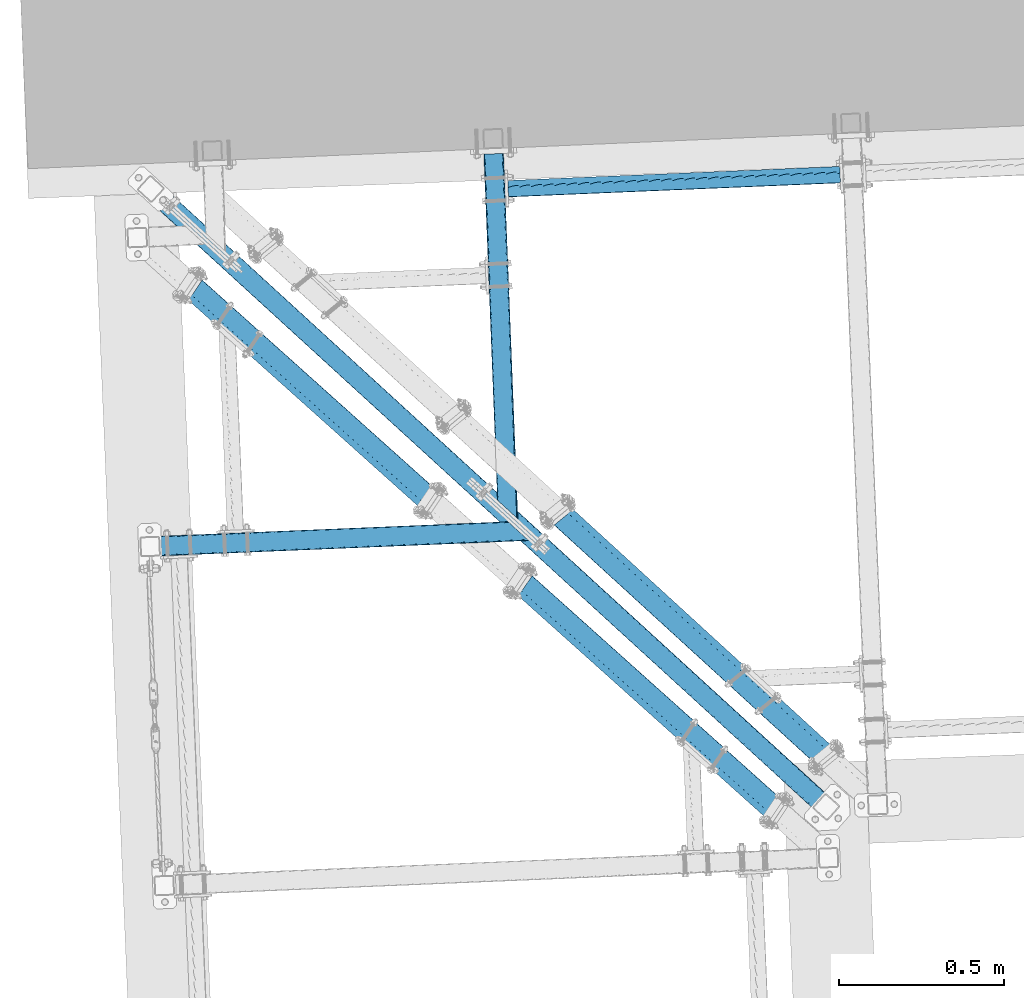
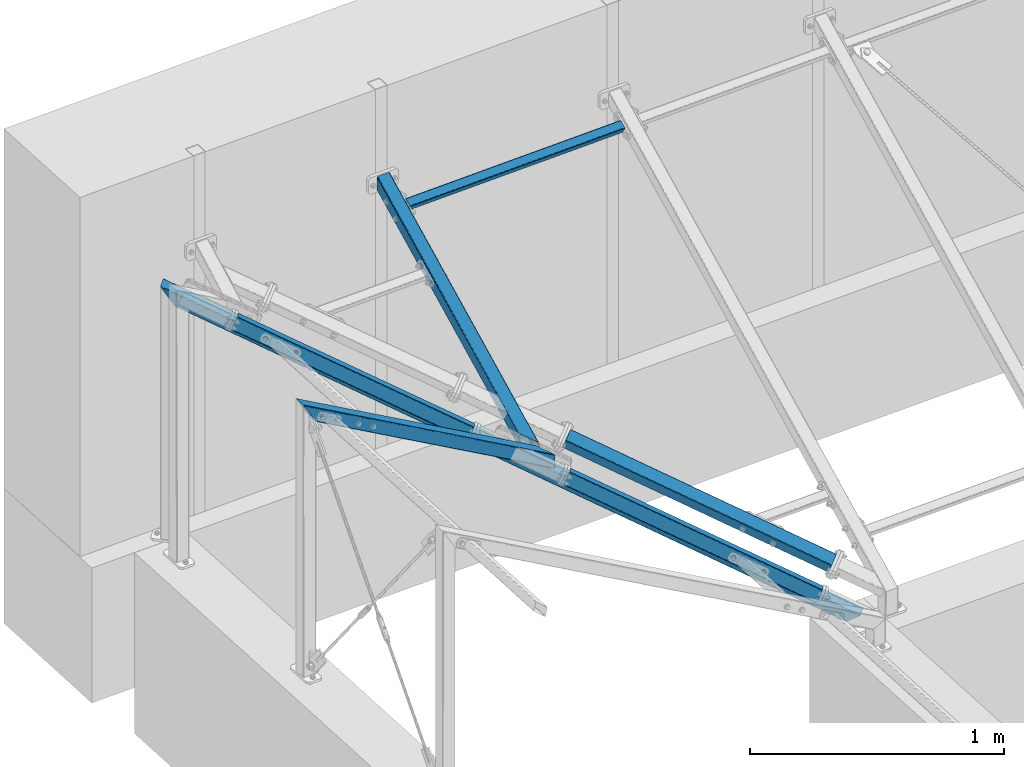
# One storey, part 14 of 288: 7 members, 36 openings.
"""IFC2X3 building model written with IfcOpenShell, lengths in millimetres."""

from ifc_helpers import new_model, entity, si_unit, converted_unit, frame, frame_2d, origin, origin_with_axes, origin_2d, origin_2d_with_axis, place, context, project, spatial, hollow_rectangle, circle, extrude, clip, halfspace, material, element, save


model = new_model("IFC2X3")

# Units and contexts
model_context = context("Model", 3, precision=1e-09, world=origin_with_axes())
ifc_project = project(units=[si_unit("LENGTHUNIT", "METRE", prefix="MILLI"), si_unit("AREAUNIT", "SQUARE_METRE"), si_unit("VOLUMEUNIT", "CUBIC_METRE"), converted_unit("PLANEANGLEUNIT", "DEGREE", entity("IfcPlaneAngleMeasure", 0.01745329), si_unit("PLANEANGLEUNIT", "RADIAN"), dimensions=[0, 0, 0, 0, 0, 0, 0])], contexts=[model_context])

# Site, building, storey
site_placement = place(None, origin_with_axes())
site = spatial("IfcSite", under=ifc_project, at=site_placement, Name="Remont ?wietlik?w nad MC w NCPP w Opolu", CompositionType="ELEMENT")
building_placement = place(site_placement, origin_with_axes())
building = spatial("IfcBuilding", under=site, at=building_placement, Name="Konstrukcja 1", CompositionType="ELEMENT")
storey_placement = place(building_placement, origin_with_axes())
storey = spatial("IfcBuildingStorey", under=building, at=storey_placement, Name="Default Storey", CompositionType="ELEMENT", Elevation=0.0)

# Member, openings
ifc_material = material(Name="S235")
member_1_placement = place(None, frame((312.021757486, 15613.200817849, 1324.932531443), z_axis=(0.033957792, -0.861354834, -0.506867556), x_axis=(-0.019967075, 0.506474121, -0.862023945)))
member_1 = element("IfcMember", 1, at=member_1_placement, inside=storey, material=ifc_material, Name="Horizontal_Beam", ObjectType="Horizontal_Beam", context=model_context, shape_type="Clipping", body=[
    clip(clip(clip(extrude(hollow_rectangle(XDim=60.0, YDim=60.0, WallThickness=3.0, InnerFilletRadius=3.0, OuterFilletRadius=6.0, at=origin_2d()), origin(), (0.0, 0.0, 1.0), 1414.584634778), halfspace(frame((-2782.822670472, 6752.071136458, 7425.348994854), z_axis=(0.363829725, 0.702579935, -0.611563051), x_axis=(0.356117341, -0.711600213, -0.605644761)), True)), halfspace(frame((1116.941804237, -926.828137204, 714.391642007), z_axis=(-0.506867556, -2.38e-07, 0.862023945), x_axis=(-1.15e-07, 1.0, 2.09e-07)), True)), halfspace(frame((1109.467404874, -926.831661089, 727.10326884), z_axis=(-0.506867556, 0.0, 0.862023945), x_axis=(0.0, 1.0, 0.0)), True)),
])
opening_1_placement = place(member_1_placement, frame((-0.584203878, 30.61777008, 199.141844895), z_axis=(-0.001751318, -0.999995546, 0.00241693), x_axis=(-0.999989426, 0.001741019, -0.004256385)))
element("IfcOpeningElement", 2, at=opening_1_placement, cuts=member_1, ObjectType="Opening", context=model_context, shape_type="SweptSolid", body=[
    extrude(circle(Radius=7.001, at=frame_2d((0.0, 40.0), x_axis=(1.0, 0.0))), origin(), (0.0, 0.0, 1.0), 4.038808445),
])
opening_2_placement = place(member_1_placement, frame((-0.584203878, 30.61777008, 199.141844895), z_axis=(-0.001751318, -0.999995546, 0.00241693), x_axis=(-0.999989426, 0.001741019, -0.004256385)))
element("IfcOpeningElement", 3, at=opening_2_placement, cuts=member_1, ObjectType="Opening", context=model_context, shape_type="SweptSolid", body=[
    extrude(circle(Radius=7.001, at=frame_2d((0.0, -40.0), x_axis=(1.0, 0.0))), origin(), (0.0, 0.0, 1.0), 4.038808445),
])
opening_3_placement = place(member_1_placement, frame((-0.584203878, 30.61777008, 199.141844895), z_axis=(-0.001751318, -0.999995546, 0.00241693), x_axis=(-0.999989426, 0.001741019, -0.004256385)))
element("IfcOpeningElement", 4, at=opening_3_placement, cuts=member_1, ObjectType="Opening", context=model_context, shape_type="SweptSolid", body=[
    extrude(circle(Radius=7.001, at=frame_2d((0.0, 40.0), x_axis=(1.0, 0.0))), origin(), (0.0, 0.0, 1.0), 4.232757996),
])
opening_4_placement = place(member_1_placement, frame((-0.584203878, 30.61777008, 199.141844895), z_axis=(-0.001751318, -0.999995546, 0.00241693), x_axis=(-0.999989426, 0.001741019, -0.004256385)))
element("IfcOpeningElement", 5, at=opening_4_placement, cuts=member_1, ObjectType="Opening", context=model_context, shape_type="SweptSolid", body=[
    extrude(circle(Radius=7.001, at=frame_2d((0.0, -40.0), x_axis=(1.0, 0.0))), origin(), (0.0, 0.0, 1.0), 4.232757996),
])
opening_5_placement = place(member_1_placement, frame((-0.684029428, -26.38222992, 199.279610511), z_axis=(-0.001751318, -0.999995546, 0.00241693), x_axis=(-0.999989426, 0.001741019, -0.004256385)))
element("IfcOpeningElement", 6, at=opening_5_placement, cuts=member_1, ObjectType="Opening", context=model_context, shape_type="SweptSolid", body=[
    extrude(circle(Radius=7.001, at=frame_2d((0.0, 40.0), x_axis=(1.0, 0.0))), origin(), (0.0, 0.0, 1.0), 4.038808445),
])
opening_6_placement = place(member_1_placement, frame((-0.684029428, -26.38222992, 199.279610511), z_axis=(-0.001751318, -0.999995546, 0.00241693), x_axis=(-0.999989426, 0.001741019, -0.004256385)))
element("IfcOpeningElement", 7, at=opening_6_placement, cuts=member_1, ObjectType="Opening", context=model_context, shape_type="SweptSolid", body=[
    extrude(circle(Radius=7.001, at=frame_2d((0.0, -40.0), x_axis=(1.0, 0.0))), origin(), (0.0, 0.0, 1.0), 4.038808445),
])
opening_7_placement = place(member_1_placement, frame((-0.684029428, -26.38222992, 199.279610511), z_axis=(-0.001751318, -0.999995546, 0.00241693), x_axis=(-0.999989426, 0.001741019, -0.004256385)))
element("IfcOpeningElement", 8, at=opening_7_placement, cuts=member_1, ObjectType="Opening", context=model_context, shape_type="SweptSolid", body=[
    extrude(circle(Radius=7.001, at=frame_2d((0.0, 40.0), x_axis=(1.0, 0.0))), origin(), (0.0, 0.0, 1.0), 4.232757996),
])
opening_8_placement = place(member_1_placement, frame((-0.684029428, -26.38222992, 199.279610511), z_axis=(-0.001751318, -0.999995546, 0.00241693), x_axis=(-0.999989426, 0.001741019, -0.004256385)))
element("IfcOpeningElement", 9, at=opening_8_placement, cuts=member_1, ObjectType="Opening", context=model_context, shape_type="SweptSolid", body=[
    extrude(circle(Radius=7.001, at=frame_2d((0.0, -40.0), x_axis=(1.0, 0.0))), origin(), (0.0, 0.0, 1.0), 4.232757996),
])
opening_9_placement = place(member_1_placement, frame((5.303739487, 26.273066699, 459.17964791), z_axis=(-0.001751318, -0.999995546, 0.00241693), x_axis=(0.999998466, -0.001751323, 0.0)))
element("IfcOpeningElement", 10, at=opening_9_placement, cuts=member_1, ObjectType="Opening", context=model_context, shape_type="SweptSolid", body=[
    extrude(circle(Radius=7.001, at=frame_2d((-7.000936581, -0.029799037), x_axis=(1.0, 0.0))), origin(), (0.0, 0.0, -1.0), 4.232757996),
])
opening_10_placement = place(member_1_placement, frame((4.963566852, 26.467015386, 539.178689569), z_axis=(-0.001751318, -0.999995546, 0.00241693), x_axis=(0.999998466, -0.001751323, 0.0)))
element("IfcOpeningElement", 11, at=opening_10_placement, cuts=member_1, ObjectType="Opening", context=model_context, shape_type="SweptSolid", body=[
    extrude(circle(Radius=7.001, at=frame_2d((-7.000936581, -0.029799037), x_axis=(1.0, 0.0))), origin(), (0.0, 0.0, -1.0), 4.232757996),
])
opening_11_placement = place(member_1_placement, frame((5.303739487, 26.273066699, 459.17964791), z_axis=(-0.001751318, -0.999995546, 0.00241693), x_axis=(0.999998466, -0.001751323, 0.0)))
element("IfcOpeningElement", 12, at=opening_11_placement, cuts=member_1, ObjectType="Opening", context=model_context, shape_type="SweptSolid", body=[
    extrude(circle(Radius=7.001, at=frame_2d((-7.000936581, -0.029799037), x_axis=(1.0, 0.0))), origin(), (0.0, 0.0, -1.0), 4.038808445),
])
opening_12_placement = place(member_1_placement, frame((4.963566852, 26.467015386, 539.178689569), z_axis=(-0.001751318, -0.999995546, 0.00241693), x_axis=(0.999998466, -0.001751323, 0.0)))
element("IfcOpeningElement", 13, at=opening_12_placement, cuts=member_1, ObjectType="Opening", context=model_context, shape_type="SweptSolid", body=[
    extrude(circle(Radius=7.001, at=frame_2d((-7.000936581, -0.029799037), x_axis=(1.0, 0.0))), origin(), (0.0, 0.0, -1.0), 4.038808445),
])
opening_13_placement = place(member_1_placement, frame((5.203913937, -30.726933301, 459.317413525), z_axis=(-0.001751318, -0.999995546, 0.00241693), x_axis=(0.999998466, -0.001751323, 0.0)))
element("IfcOpeningElement", 14, at=opening_13_placement, cuts=member_1, ObjectType="Opening", context=model_context, shape_type="SweptSolid", body=[
    extrude(circle(Radius=7.001, at=frame_2d((-7.000936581, -0.029799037), x_axis=(1.0, 0.0))), origin(), (0.0, 0.0, -1.0), 4.232757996),
])
opening_14_placement = place(member_1_placement, frame((4.863741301, -30.532984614, 539.316455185), z_axis=(-0.001751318, -0.999995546, 0.00241693), x_axis=(0.999998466, -0.001751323, 0.0)))
element("IfcOpeningElement", 15, at=opening_14_placement, cuts=member_1, ObjectType="Opening", context=model_context, shape_type="SweptSolid", body=[
    extrude(circle(Radius=7.001, at=frame_2d((-7.000936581, -0.029799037), x_axis=(1.0, 0.0))), origin(), (0.0, 0.0, -1.0), 4.232757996),
])
opening_15_placement = place(member_1_placement, frame((5.203913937, -30.726933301, 459.317413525), z_axis=(-0.001751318, -0.999995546, 0.00241693), x_axis=(0.999998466, -0.001751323, 0.0)))
element("IfcOpeningElement", 16, at=opening_15_placement, cuts=member_1, ObjectType="Opening", context=model_context, shape_type="SweptSolid", body=[
    extrude(circle(Radius=7.001, at=frame_2d((-7.000936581, -0.029799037), x_axis=(1.0, 0.0))), origin(), (0.0, 0.0, -1.0), 4.038808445),
])
opening_16_placement = place(member_1_placement, frame((4.863741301, -30.532984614, 539.316455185), z_axis=(-0.001751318, -0.999995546, 0.00241693), x_axis=(0.999998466, -0.001751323, 0.0)))
element("IfcOpeningElement", 17, at=opening_16_placement, cuts=member_1, ObjectType="Opening", context=model_context, shape_type="SweptSolid", body=[
    extrude(circle(Radius=7.001, at=frame_2d((-7.000936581, -0.029799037), x_axis=(1.0, 0.0))), origin(), (0.0, 0.0, -1.0), 4.038808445),
])

member_2_placement = place(None, frame((-797.524528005, 14358.53955782, 1312.426372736), z_axis=(0.865273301, 0.036089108, -0.499999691), x_axis=(-0.499565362, -0.020836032, -0.866025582)))
member_2 = element("IfcMember", 18, at=member_2_placement, inside=storey, material=ifc_material, Name="Horizontal_Beam", ObjectType="Horizontal_Beam", context=model_context, shape_type="Clipping", body=[
    clip(clip(extrude(hollow_rectangle(XDim=60.0, YDim=60.0, WallThickness=3.0, InnerFilletRadius=3.0, OuterFilletRadius=6.0, at=origin_2d()), origin(), (0.0, 0.0, 1.0), 1462.180406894), halfspace(frame((581.174326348, -14379.30140689, 1091.478192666), z_axis=(-0.866025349, 0.0, 0.500000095), x_axis=(0.0, 1.0, 0.0)), True)), halfspace(frame((-2767.347701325, -6637.85844159, 7497.607644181), z_axis=(0.348940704, -0.709991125, -0.611680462), x_axis=(-0.35499771, -0.704205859, 0.614874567)), True)),
])
opening_17_placement = place(member_2_placement, frame((0.044186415, -26.499966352, 151.777308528), z_axis=(-1.14e-07, 1.0, 4.22e-07), x_axis=(-1.0, -1.14e-07, 0.0)))
element("IfcOpeningElement", 19, at=opening_17_placement, cuts=member_2, ObjectType="Opening", context=model_context, shape_type="SweptSolid", body=[
    extrude(circle(Radius=7.001, at=frame_2d((0.0, -7.001), x_axis=(1.0, 0.0))), origin(), (0.0, 0.0, -1.0), 4.000039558),
])
opening_18_placement = place(member_2_placement, frame((0.044186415, -26.5000001, 231.777308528), z_axis=(-1.14e-07, 1.0, 4.22e-07), x_axis=(-1.0, -1.14e-07, 0.0)))
element("IfcOpeningElement", 20, at=opening_18_placement, cuts=member_2, ObjectType="Opening", context=model_context, shape_type="SweptSolid", body=[
    extrude(circle(Radius=7.001, at=frame_2d((0.0, -7.001), x_axis=(1.0, 0.0))), origin(), (0.0, 0.0, -1.0), 4.000039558),
])
opening_19_placement = place(member_2_placement, frame((0.044179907, 30.500033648, 151.777332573), z_axis=(-1.14e-07, 1.0, 4.22e-07), x_axis=(-1.0, -1.14e-07, 0.0)))
element("IfcOpeningElement", 21, at=opening_19_placement, cuts=member_2, ObjectType="Opening", context=model_context, shape_type="SweptSolid", body=[
    extrude(circle(Radius=7.001, at=frame_2d((0.0, -7.001), x_axis=(1.0, 0.0))), origin(), (0.0, 0.0, -1.0), 4.000039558),
])
opening_20_placement = place(member_2_placement, frame((0.044179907, 30.4999999, 231.777332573), z_axis=(-1.14e-07, 1.0, 4.22e-07), x_axis=(-1.0, -1.14e-07, 0.0)))
element("IfcOpeningElement", 22, at=opening_20_placement, cuts=member_2, ObjectType="Opening", context=model_context, shape_type="SweptSolid", body=[
    extrude(circle(Radius=7.001, at=frame_2d((0.0, -7.001), x_axis=(1.0, 0.0))), origin(), (0.0, 0.0, -1.0), 4.000039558),
])
opening_21_placement = place(member_2_placement, frame((-0.102759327, -26.499966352, 351.777314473), z_axis=(-1.14e-07, 1.0, 4.22e-07), x_axis=(-1.0, -1.14e-07, 0.0)))
element("IfcOpeningElement", 23, at=opening_21_placement, cuts=member_2, ObjectType="Opening", context=model_context, shape_type="SweptSolid", body=[
    extrude(circle(Radius=7.001, at=frame_2d((0.0, -7.001), x_axis=(1.0, 0.0))), origin(), (0.0, 0.0, -1.0), 4.000039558),
])
opening_22_placement = place(member_2_placement, frame((-0.102759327, -26.5000001, 431.777314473), z_axis=(-1.14e-07, 1.0, 4.22e-07), x_axis=(-1.0, -1.14e-07, 0.0)))
element("IfcOpeningElement", 24, at=opening_22_placement, cuts=member_2, ObjectType="Opening", context=model_context, shape_type="SweptSolid", body=[
    extrude(circle(Radius=7.001, at=frame_2d((0.0, -7.001), x_axis=(1.0, 0.0))), origin(), (0.0, 0.0, -1.0), 4.000039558),
])
opening_23_placement = place(member_2_placement, frame((-0.102765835, 30.500033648, 351.777338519), z_axis=(-1.14e-07, 1.0, 4.22e-07), x_axis=(-1.0, -1.14e-07, 0.0)))
element("IfcOpeningElement", 25, at=opening_23_placement, cuts=member_2, ObjectType="Opening", context=model_context, shape_type="SweptSolid", body=[
    extrude(circle(Radius=7.001, at=frame_2d((0.0, -7.001), x_axis=(1.0, 0.0))), origin(), (0.0, 0.0, -1.0), 4.000039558),
])
opening_24_placement = place(member_2_placement, frame((-0.102765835, 30.4999999, 431.777338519), z_axis=(-1.14e-07, 1.0, 4.22e-07), x_axis=(-1.0, -1.14e-07, 0.0)))
element("IfcOpeningElement", 26, at=opening_24_placement, cuts=member_2, ObjectType="Opening", context=model_context, shape_type="SweptSolid", body=[
    extrude(circle(Radius=7.001, at=frame_2d((0.0, -7.001), x_axis=(1.0, 0.0))), origin(), (0.0, 0.0, -1.0), 4.000039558),
])

# Member
member_3_placement = place(None, frame((1471.090262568, 13435.300832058, -36.982516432), z_axis=(0.682725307, -0.62478468, -0.378853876), x_axis=(0.67400264, 0.738719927, -0.003648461)))
element("IfcMember", 27, at=member_3_placement, inside=storey, material=ifc_material, Name="Horizontal_Beam", ObjectType="Horizontal_Beam", context=model_context, shape_type="Clipping", body=[
    clip(clip(extrude(hollow_rectangle(XDim=60.0, YDim=60.0, WallThickness=3.0, InnerFilletRadius=3.0, OuterFilletRadius=6.0, at=origin_2d()), origin(), (0.0, 0.0, -1.0), 3604.400678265), halfspace(frame((-10933.986673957, 5571.687352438, 3626.870175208), z_axis=(-0.003837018, 0.563214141, -0.826302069), x_axis=(-0.99999231, -0.002831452, 0.002713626)), True)), halfspace(frame((-10888.941367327, -3993.805511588, 2657.288541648), z_axis=(-0.003270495, 0.829576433, 0.558383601), x_axis=(0.999992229, 0.003942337, 0.0)), True)),
])

# Member, openings
member_4_placement = place(None, frame((-654.781028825, 15197.02767066, 1209.911555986), z_axis=(-0.688159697, 0.616779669, 0.382124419), x_axis=(0.499565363, 0.020836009, 0.866025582)))
member_4 = element("IfcMember", 28, at=member_4_placement, inside=storey, material=ifc_material, Name="Horizontal_Beam", ObjectType="Horizontal_Beam", context=model_context, shape_type="Clipping", body=[
    clip(clip(extrude(hollow_rectangle(XDim=60.0, YDim=60.0, WallThickness=3.0, InnerFilletRadius=3.0, OuterFilletRadius=6.0, at=origin_2d()), origin(), (0.0, 0.0, -1.0), 1201.24793663), halfspace(frame((-1037.353841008, -11223.249226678, -84.927406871), z_axis=(0.0, 0.0, -1.0), x_axis=(0.348941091, 0.937144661, 0.0)), True)), halfspace(frame((-1037.353841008, -11223.249226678, -1116.320529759), z_axis=(0.0, 0.0, 1.0), x_axis=(-0.348941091, -0.937144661, 0.0)), True)),
])
opening_25_placement = place(member_4_placement, frame((0.096030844, 30.500093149, -221.935549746), z_axis=(-1.5395e-05, -1.0, 0.0), x_axis=(0.0, 0.0, -1.0)))
element("IfcOpeningElement", 29, at=opening_25_placement, cuts=member_4, ObjectType="Opening", context=model_context, shape_type="SweptSolid", body=[
    extrude(circle(Radius=7.001, at=origin_2d_with_axis()), origin(), (0.0, 0.0, 1.0), 4.000200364),
])
opening_26_placement = place(member_4_placement, frame((0.095153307, -26.499906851, -221.935549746), z_axis=(-1.5395e-05, -1.0, 0.0), x_axis=(0.0, 0.0, -1.0)))
element("IfcOpeningElement", 30, at=opening_26_placement, cuts=member_4, ObjectType="Opening", context=model_context, shape_type="SweptSolid", body=[
    extrude(circle(Radius=7.001, at=origin_2d_with_axis()), origin(), (0.0, 0.0, 1.0), 4.000200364),
])
opening_27_placement = place(member_4_placement, frame((0.095629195, 26.499906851, -347.273493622), z_axis=(-1.5395e-05, -1.0, 0.0), x_axis=(1.0, -1.5395e-05, 0.0)))
element("IfcOpeningElement", 31, at=opening_27_placement, cuts=member_4, ObjectType="Opening", context=model_context, shape_type="SweptSolid", body=[
    extrude(circle(Radius=7.001, at=frame_2d((-5e-09, -7.001), x_axis=(1.0, 0.0))), origin(), (0.0, 0.0, -1.0), 4.000200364),
])
opening_28_placement = place(member_4_placement, frame((0.094751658, -30.500093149, -347.273493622), z_axis=(-1.5395e-05, -1.0, 0.0), x_axis=(1.0, -1.5395e-05, 0.0)))
element("IfcOpeningElement", 32, at=opening_28_placement, cuts=member_4, ObjectType="Opening", context=model_context, shape_type="SweptSolid", body=[
    extrude(circle(Radius=7.001, at=frame_2d((-5e-09, -7.001), x_axis=(1.0, 0.0))), origin(), (0.0, 0.0, -1.0), 4.000200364),
])

member_5_placement = place(None, frame((342.659196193, 14303.047895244, 656.048450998), z_axis=(-0.688159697, 0.616779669, 0.382124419), x_axis=(0.499565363, 0.020836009, 0.866025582)))
member_5 = element("IfcMember", 33, at=member_5_placement, inside=storey, material=ifc_material, Name="Horizontal_Beam", ObjectType="Horizontal_Beam", context=model_context, shape_type="Clipping", body=[
    clip(clip(extrude(hollow_rectangle(XDim=60.0, YDim=60.0, WallThickness=3.0, InnerFilletRadius=3.0, OuterFilletRadius=6.0, at=origin_2d()), origin(), (0.0, 0.0, -1.0), 1271.350510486), halfspace(frame((-1037.353841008, -11223.249226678, -1186.423103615), z_axis=(0.0, 0.0, 1.0), x_axis=(-0.348941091, -0.937144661, 0.0)), True)), halfspace(frame((-1037.353841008, -11223.249226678, -84.927406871), z_axis=(0.0, 0.0, -1.0), x_axis=(0.348941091, 0.937144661, 0.0)), True)),
])
opening_29_placement = place(member_5_placement, frame((-9.932473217, -26.5, -814.734615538), z_axis=(0.0, 1.0, 0.0), x_axis=(-1.0, 0.0, 0.0)))
element("IfcOpeningElement", 34, at=opening_29_placement, cuts=member_5, ObjectType="Opening", context=model_context, shape_type="SweptSolid", body=[
    extrude(circle(Radius=7.001, at=frame_2d((-7.001, -5e-09), x_axis=(1.0, 0.0))), origin(), (0.0, 0.0, -1.0), 4.0),
])
opening_30_placement = place(member_5_placement, frame((-9.932473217, 30.5, -814.734615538), z_axis=(0.0, 1.0, 0.0), x_axis=(-1.0, 0.0, 0.0)))
element("IfcOpeningElement", 35, at=opening_30_placement, cuts=member_5, ObjectType="Opening", context=model_context, shape_type="SweptSolid", body=[
    extrude(circle(Radius=7.001, at=frame_2d((-7.001, -5e-09), x_axis=(1.0, 0.0))), origin(), (0.0, 0.0, -1.0), 4.0),
])
opening_31_placement = place(member_5_placement, frame((-9.932812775, -26.5, -947.073559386), z_axis=(0.0, 1.0, 0.0), x_axis=(-1.0, 0.0, 0.0)))
element("IfcOpeningElement", 36, at=opening_31_placement, cuts=member_5, ObjectType="Opening", context=model_context, shape_type="SweptSolid", body=[
    extrude(circle(Radius=7.001, at=frame_2d((-7.001, -5e-09), x_axis=(1.0, 0.0))), origin(), (0.0, 0.0, -1.0), 4.0),
])
opening_32_placement = place(member_5_placement, frame((-9.932812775, 30.5, -947.073559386), z_axis=(0.0, 1.0, 0.0), x_axis=(-1.0, 0.0, 0.0)))
element("IfcOpeningElement", 37, at=opening_32_placement, cuts=member_5, ObjectType="Opening", context=model_context, shape_type="SweptSolid", body=[
    extrude(circle(Radius=7.001, at=frame_2d((-7.001, -5e-09), x_axis=(1.0, 0.0))), origin(), (0.0, 0.0, -1.0), 4.0),
])

member_6_placement = place(None, frame((1367.983108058, 13679.975033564, 169.899096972), z_axis=(0.683021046, -0.624623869, -0.378585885), x_axis=(0.020364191, -0.501840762, 0.864720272)))
member_6 = element("IfcMember", 38, at=member_6_placement, inside=storey, material=ifc_material, Name="Horizontal_Beam", ObjectType="Horizontal_Beam", context=model_context, shape_type="Clipping", body=[
    clip(clip(extrude(hollow_rectangle(XDim=60.0, YDim=60.0, WallThickness=3.0, InnerFilletRadius=3.0, OuterFilletRadius=6.0, at=origin_2d()), origin(), (0.0, 0.0, -1.0), 1330.590072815), halfspace(frame((6682.535560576, 9240.02274954, -1251.520823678), z_axis=(0.000880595, 0.0, 0.999999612), x_axis=(-0.356470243, -0.934306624, 0.000313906)), True)), halfspace(frame((6690.39603474, 9240.02274954, -84.927406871), z_axis=(0.0, 0.0, -1.0), x_axis=(0.35659022, 0.934260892, 0.0)), True)),
])
opening_33_placement = place(member_6_placement, frame((-4.703849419, -26.5, -463.723506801), z_axis=(0.0, 1.0, 0.0), x_axis=(-1.0, 0.0, 0.0)))
element("IfcOpeningElement", 39, at=opening_33_placement, cuts=member_6, ObjectType="Opening", context=model_context, shape_type="SweptSolid", body=[
    extrude(circle(Radius=7.001, at=frame_2d((-7.00099269, 0.010116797), x_axis=(1.0, 0.0))), origin(), (0.0, 0.0, -1.0), 4.0),
])
opening_34_placement = place(member_6_placement, frame((-4.703849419, 30.5, -463.723506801), z_axis=(0.0, 1.0, 0.0), x_axis=(-1.0, 0.0, 0.0)))
element("IfcOpeningElement", 40, at=opening_34_placement, cuts=member_6, ObjectType="Opening", context=model_context, shape_type="SweptSolid", body=[
    extrude(circle(Radius=7.001, at=frame_2d((-7.00099269, 0.010116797), x_axis=(1.0, 0.0))), origin(), (0.0, 0.0, -1.0), 4.0),
])
opening_35_placement = place(member_6_placement, frame((-4.901544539, -26.5, -330.723288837), z_axis=(0.0, 1.0, 0.0), x_axis=(-1.0, 0.0, 0.0)))
element("IfcOpeningElement", 41, at=opening_35_placement, cuts=member_6, ObjectType="Opening", context=model_context, shape_type="SweptSolid", body=[
    extrude(circle(Radius=7.001, at=frame_2d((-7.00099269, 0.010116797), x_axis=(1.0, 0.0))), origin(), (0.0, 0.0, -1.0), 4.0),
])
opening_36_placement = place(member_6_placement, frame((-4.901544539, 30.5, -330.723288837), z_axis=(0.0, 1.0, 0.0), x_axis=(-1.0, 0.0, 0.0)))
element("IfcOpeningElement", 42, at=opening_36_placement, cuts=member_6, ObjectType="Opening", context=model_context, shape_type="SweptSolid", body=[
    extrude(circle(Radius=7.001, at=frame_2d((-7.00099269, 0.010116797), x_axis=(1.0, 0.0))), origin(), (0.0, 0.0, -1.0), 4.0),
])

# Member
member_7_placement = place(None, frame((1361.863098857, 15485.507946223, 1224.209172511), z_axis=(0.999102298, 0.042361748, -0.000284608), x_axis=(-0.036464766, 0.86340262, 0.503196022)))
element("IfcMember", 43, at=member_7_placement, inside=storey, material=ifc_material, Name="TubeBracing", ObjectType="TubeBracing", context=model_context, shape_type="SweptSolid", body=[
    extrude(hollow_rectangle(XDim=40.0, YDim=40.0, WallThickness=3.0, InnerFilletRadius=3.0, OuterFilletRadius=6.0, at=origin_2d()), origin(), (0.0, 0.0, -1.0), 1004.637224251),
])

save(model, "model.ifc")
